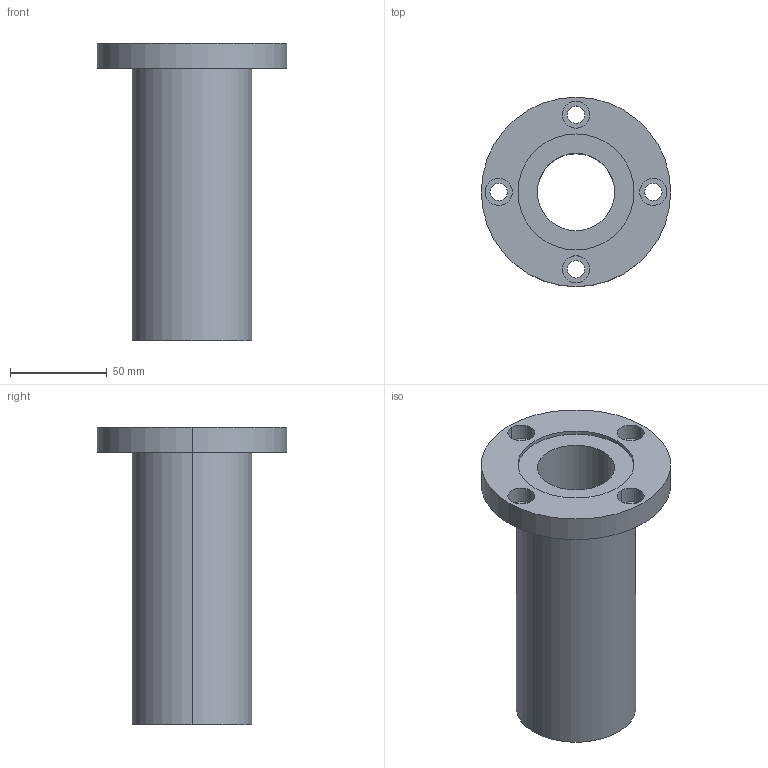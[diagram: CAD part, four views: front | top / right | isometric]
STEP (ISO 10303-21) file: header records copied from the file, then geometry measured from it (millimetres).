
FILE_DESCRIPTION((''),'2;1');
FILE_NAME('C:\Documents and Settings\ｿﾀﾀ蠑ｷ1\ｹﾙﾅﾁ ﾈｭｸ饅\ｺﾎﾇｰﾆﾄﾀﾏ\ﾁｦﾇｰ\LMEF__LUU\LMEF40LUU.stp','2005-06-15T10:54:44',('ｿﾀﾀ蠑ｷ1'),(''),'Autodesk Inventor 9','Autodesk Inventor 9','');
FILE_SCHEMA(('AUTOMOTIVE_DESIGN { 1 0 10303 214 1 1 1 1 }'));
Length unit declared in the file: millimetre
Products named in the file (1): LMEF__(L)
Bounding box: 98 x 98 x 154 mm (x, y, z)
Volume: 317527.7 mm3; surface area: 65143.8 mm2
Topology: 1 solids, 1 shells, 35 faces, 78 edges, 52 vertices
Faces by surface type: bspline 20, cylinder 10, plane 5
Entity records: 1255 total; most frequent: CARTESIAN_POINT 450, DIRECTION 162, ORIENTED_EDGE 156, EDGE_CURVE 78, AXIS2_PLACEMENT_3D 68, VERTEX_POINT 52, CIRCLE 52, EDGE_LOOP 52
